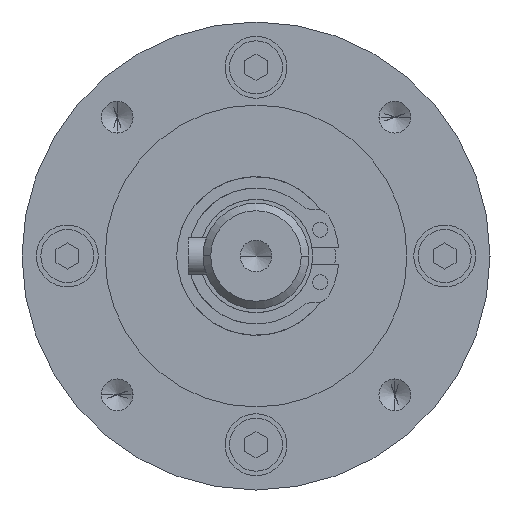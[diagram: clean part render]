
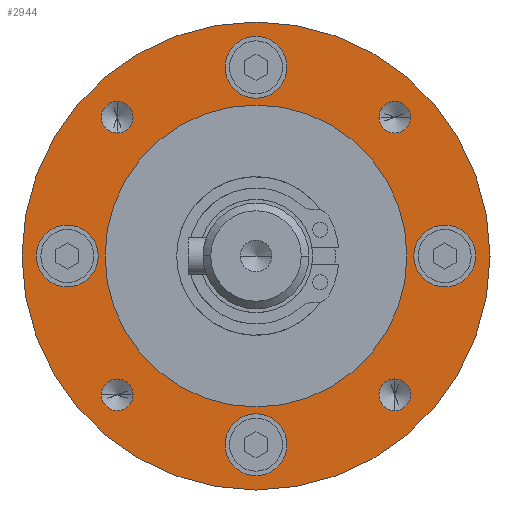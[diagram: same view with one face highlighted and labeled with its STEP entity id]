
A CAD part, left-side view. The second image highlights one B-rep face of the part: STEP entity #2944.
In plain terms, the highlighted planar face has unit normal (-1, 0, 0).
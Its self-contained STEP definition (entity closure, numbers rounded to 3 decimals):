
#282=CARTESIAN_POINT('',(-88.3,0.,0.));
#283=DIRECTION('',(1.,0.,0.));
#284=DIRECTION('',(0.,1.,0.));
#285=AXIS2_PLACEMENT_3D('',#282,#283,#284);
#290=CARTESIAN_POINT('',(-88.3,0.,0.));
#291=DIRECTION('',(1.,0.,0.));
#292=DIRECTION('',(0.,-1.,0.));
#293=AXIS2_PLACEMENT_3D('',#290,#291,#292);
#298=CARTESIAN_POINT('',(-88.3,0.,0.));
#299=DIRECTION('',(-1.,0.,0.));
#300=DIRECTION('',(0.,1.,0.));
#301=AXIS2_PLACEMENT_3D('',#298,#299,#300);
#306=CARTESIAN_POINT('',(-88.3,0.,0.));
#307=DIRECTION('',(-1.,0.,0.));
#308=DIRECTION('',(0.,-1.,0.));
#309=AXIS2_PLACEMENT_3D('',#306,#307,#308);
#314=CARTESIAN_POINT('',(-88.3,-18.385,18.385));
#315=DIRECTION('',(-1.,0.,0.));
#316=DIRECTION('',(0.,1.,0.));
#317=AXIS2_PLACEMENT_3D('',#314,#315,#316);
#322=CARTESIAN_POINT('',(-88.3,-18.385,18.385));
#323=DIRECTION('',(-1.,0.,0.));
#324=DIRECTION('',(0.,-1.,0.));
#325=AXIS2_PLACEMENT_3D('',#322,#323,#324);
#330=CARTESIAN_POINT('',(-88.3,18.385,18.385));
#331=DIRECTION('',(-1.,0.,0.));
#332=DIRECTION('',(0.,0.,-1.));
#333=AXIS2_PLACEMENT_3D('',#330,#331,#332);
#338=CARTESIAN_POINT('',(-88.3,18.385,18.385));
#339=DIRECTION('',(-1.,0.,0.));
#340=DIRECTION('',(0.,0.,1.));
#341=AXIS2_PLACEMENT_3D('',#338,#339,#340);
#346=CARTESIAN_POINT('',(-88.3,18.385,-18.385));
#347=DIRECTION('',(-1.,0.,0.));
#348=DIRECTION('',(0.,-1.,0.));
#349=AXIS2_PLACEMENT_3D('',#346,#347,#348);
#354=CARTESIAN_POINT('',(-88.3,18.385,-18.385));
#355=DIRECTION('',(-1.,0.,0.));
#356=DIRECTION('',(0.,1.,0.));
#357=AXIS2_PLACEMENT_3D('',#354,#355,#356);
#362=CARTESIAN_POINT('',(-88.3,-18.385,-18.385));
#363=DIRECTION('',(-1.,0.,0.));
#364=DIRECTION('',(0.,0.,1.));
#365=AXIS2_PLACEMENT_3D('',#362,#363,#364);
#370=CARTESIAN_POINT('',(-88.3,-18.385,-18.385));
#371=DIRECTION('',(-1.,0.,0.));
#372=DIRECTION('',(0.,0.,-1.));
#373=AXIS2_PLACEMENT_3D('',#370,#371,#372);
#378=CARTESIAN_POINT('',(-88.3,25.,0.));
#379=DIRECTION('',(-1.,0.,0.));
#380=DIRECTION('',(0.,0.,1.));
#381=AXIS2_PLACEMENT_3D('',#378,#379,#380);
#386=CARTESIAN_POINT('',(-88.3,25.,0.));
#387=DIRECTION('',(-1.,0.,0.));
#388=DIRECTION('',(0.,0.,-1.));
#389=AXIS2_PLACEMENT_3D('',#386,#387,#388);
#394=CARTESIAN_POINT('',(-88.3,0.,25.));
#395=DIRECTION('',(-1.,0.,0.));
#396=DIRECTION('',(0.,0.,1.));
#397=AXIS2_PLACEMENT_3D('',#394,#395,#396);
#402=CARTESIAN_POINT('',(-88.3,0.,25.));
#403=DIRECTION('',(-1.,0.,0.));
#404=DIRECTION('',(0.,0.,-1.));
#405=AXIS2_PLACEMENT_3D('',#402,#403,#404);
#410=CARTESIAN_POINT('',(-88.3,-25.,0.));
#411=DIRECTION('',(-1.,0.,0.));
#412=DIRECTION('',(0.,0.,1.));
#413=AXIS2_PLACEMENT_3D('',#410,#411,#412);
#418=CARTESIAN_POINT('',(-88.3,-25.,0.));
#419=DIRECTION('',(-1.,0.,0.));
#420=DIRECTION('',(0.,0.,-1.));
#421=AXIS2_PLACEMENT_3D('',#418,#419,#420);
#426=CARTESIAN_POINT('',(-88.3,0.,-25.));
#427=DIRECTION('',(-1.,0.,0.));
#428=DIRECTION('',(0.,0.,1.));
#429=AXIS2_PLACEMENT_3D('',#426,#427,#428);
#434=CARTESIAN_POINT('',(-88.3,0.,-25.));
#435=DIRECTION('',(-1.,0.,0.));
#436=DIRECTION('',(0.,0.,-1.));
#437=AXIS2_PLACEMENT_3D('',#434,#435,#436);
#2301=CARTESIAN_POINT('',(-88.3,-31.,0.));
#2302=VERTEX_POINT('',#2301);
#2303=CARTESIAN_POINT('',(-88.3,31.,0.));
#2304=VERTEX_POINT('',#2303);
#2321=CARTESIAN_POINT('',(-88.3,20.,0.));
#2322=CARTESIAN_POINT('',(-88.3,-20.,0.));
#2323=VERTEX_POINT('',#2321);
#2324=VERTEX_POINT('',#2322);
#2325=CARTESIAN_POINT('',(-88.3,-16.285,18.385));
#2326=CARTESIAN_POINT('',(-88.3,-20.485,18.385));
#2327=VERTEX_POINT('',#2325);
#2328=VERTEX_POINT('',#2326);
#2329=CARTESIAN_POINT('',(-88.3,18.385,16.285));
#2330=CARTESIAN_POINT('',(-88.3,18.385,20.485));
#2331=VERTEX_POINT('',#2329);
#2332=VERTEX_POINT('',#2330);
#2333=CARTESIAN_POINT('',(-88.3,16.285,-18.385));
#2334=CARTESIAN_POINT('',(-88.3,20.485,-18.385));
#2335=VERTEX_POINT('',#2333);
#2336=VERTEX_POINT('',#2334);
#2337=CARTESIAN_POINT('',(-88.3,-18.385,-16.285));
#2338=CARTESIAN_POINT('',(-88.3,-18.385,-20.485));
#2339=VERTEX_POINT('',#2337);
#2340=VERTEX_POINT('',#2338);
#2341=CARTESIAN_POINT('',(-88.3,25.,4.1));
#2342=CARTESIAN_POINT('',(-88.3,25.,-4.1));
#2343=VERTEX_POINT('',#2341);
#2344=VERTEX_POINT('',#2342);
#2345=CARTESIAN_POINT('',(-88.3,0.,29.1));
#2346=CARTESIAN_POINT('',(-88.3,0.,20.9));
#2347=VERTEX_POINT('',#2345);
#2348=VERTEX_POINT('',#2346);
#2349=CARTESIAN_POINT('',(-88.3,-25.,4.1));
#2350=CARTESIAN_POINT('',(-88.3,-25.,-4.1));
#2351=VERTEX_POINT('',#2349);
#2352=VERTEX_POINT('',#2350);
#2353=CARTESIAN_POINT('',(-88.3,0.,-20.9));
#2354=CARTESIAN_POINT('',(-88.3,0.,-29.1));
#2355=VERTEX_POINT('',#2353);
#2356=VERTEX_POINT('',#2354);
#2881=CARTESIAN_POINT('',(-88.3,0.,0.));
#2882=DIRECTION('',(-1.,0.,0.));
#2883=DIRECTION('',(0.,1.,0.));
#2884=AXIS2_PLACEMENT_3D('',#2881,#2882,#2883);
#2885=PLANE('',#2884);
#2886=ORIENTED_EDGE('',*,*,#2848,.T.);
#2887=ORIENTED_EDGE('',*,*,#2863,.T.);
#2888=EDGE_LOOP('',(#2886,#2887));
#2889=FACE_OUTER_BOUND('',#2888,.F.);
#2891=ORIENTED_EDGE('',*,*,#2890,.T.);
#2893=ORIENTED_EDGE('',*,*,#2892,.T.);
#2894=EDGE_LOOP('',(#2891,#2893));
#2895=FACE_BOUND('',#2894,.F.);
#2897=ORIENTED_EDGE('',*,*,#2896,.T.);
#2899=ORIENTED_EDGE('',*,*,#2898,.T.);
#2900=EDGE_LOOP('',(#2897,#2899));
#2901=FACE_BOUND('',#2900,.F.);
#2903=ORIENTED_EDGE('',*,*,#2902,.T.);
#2905=ORIENTED_EDGE('',*,*,#2904,.T.);
#2906=EDGE_LOOP('',(#2903,#2905));
#2907=FACE_BOUND('',#2906,.F.);
#2909=ORIENTED_EDGE('',*,*,#2908,.T.);
#2911=ORIENTED_EDGE('',*,*,#2910,.T.);
#2912=EDGE_LOOP('',(#2909,#2911));
#2913=FACE_BOUND('',#2912,.F.);
#2915=ORIENTED_EDGE('',*,*,#2914,.T.);
#2917=ORIENTED_EDGE('',*,*,#2916,.T.);
#2918=EDGE_LOOP('',(#2915,#2917));
#2919=FACE_BOUND('',#2918,.F.);
#2921=ORIENTED_EDGE('',*,*,#2920,.T.);
#2923=ORIENTED_EDGE('',*,*,#2922,.T.);
#2924=EDGE_LOOP('',(#2921,#2923));
#2925=FACE_BOUND('',#2924,.F.);
#2927=ORIENTED_EDGE('',*,*,#2926,.T.);
#2929=ORIENTED_EDGE('',*,*,#2928,.T.);
#2930=EDGE_LOOP('',(#2927,#2929));
#2931=FACE_BOUND('',#2930,.F.);
#2933=ORIENTED_EDGE('',*,*,#2932,.T.);
#2935=ORIENTED_EDGE('',*,*,#2934,.T.);
#2936=EDGE_LOOP('',(#2933,#2935));
#2937=FACE_BOUND('',#2936,.F.);
#2939=ORIENTED_EDGE('',*,*,#2938,.T.);
#2941=ORIENTED_EDGE('',*,*,#2940,.T.);
#2942=EDGE_LOOP('',(#2939,#2941));
#2943=FACE_BOUND('',#2942,.F.);
#2944=ADVANCED_FACE('',(#2889,#2895,#2901,#2907,#2913,#2919,#2925,#2931,#2937,
#2943),#2885,.T.);
#286=CIRCLE('',#285,31.);
#294=CIRCLE('',#293,31.);
#302=CIRCLE('',#301,20.);
#310=CIRCLE('',#309,20.);
#318=CIRCLE('',#317,2.1);
#326=CIRCLE('',#325,2.1);
#334=CIRCLE('',#333,2.1);
#342=CIRCLE('',#341,2.1);
#350=CIRCLE('',#349,2.1);
#358=CIRCLE('',#357,2.1);
#366=CIRCLE('',#365,2.1);
#374=CIRCLE('',#373,2.1);
#382=CIRCLE('',#381,4.1);
#390=CIRCLE('',#389,4.1);
#398=CIRCLE('',#397,4.1);
#406=CIRCLE('',#405,4.1);
#414=CIRCLE('',#413,4.1);
#422=CIRCLE('',#421,4.1);
#430=CIRCLE('',#429,4.1);
#438=CIRCLE('',#437,4.1);
#2848=EDGE_CURVE('',#2304,#2302,#286,.T.);
#2863=EDGE_CURVE('',#2302,#2304,#294,.T.);
#2890=EDGE_CURVE('',#2323,#2324,#302,.T.);
#2892=EDGE_CURVE('',#2324,#2323,#310,.T.);
#2896=EDGE_CURVE('',#2327,#2328,#318,.T.);
#2898=EDGE_CURVE('',#2328,#2327,#326,.T.);
#2902=EDGE_CURVE('',#2331,#2332,#334,.T.);
#2904=EDGE_CURVE('',#2332,#2331,#342,.T.);
#2908=EDGE_CURVE('',#2335,#2336,#350,.T.);
#2910=EDGE_CURVE('',#2336,#2335,#358,.T.);
#2914=EDGE_CURVE('',#2339,#2340,#366,.T.);
#2916=EDGE_CURVE('',#2340,#2339,#374,.T.);
#2920=EDGE_CURVE('',#2343,#2344,#382,.T.);
#2922=EDGE_CURVE('',#2344,#2343,#390,.T.);
#2926=EDGE_CURVE('',#2347,#2348,#398,.T.);
#2928=EDGE_CURVE('',#2348,#2347,#406,.T.);
#2932=EDGE_CURVE('',#2351,#2352,#414,.T.);
#2934=EDGE_CURVE('',#2352,#2351,#422,.T.);
#2938=EDGE_CURVE('',#2355,#2356,#430,.T.);
#2940=EDGE_CURVE('',#2356,#2355,#438,.T.);
